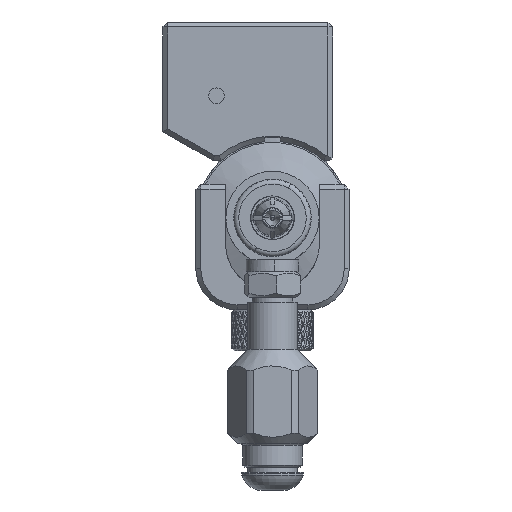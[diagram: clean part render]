
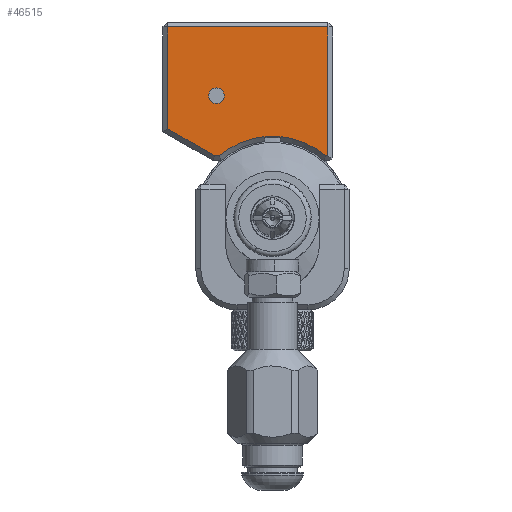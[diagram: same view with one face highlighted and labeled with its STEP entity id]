
A CAD part, front view. The second image highlights one B-rep face of the part: STEP entity #46515.
In plain terms, the highlighted planar face has unit normal (0, -1, 0).
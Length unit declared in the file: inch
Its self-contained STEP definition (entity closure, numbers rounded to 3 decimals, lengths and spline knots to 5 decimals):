
#912 = CIRCLE ( 'NONE', #98925, 0.04724 ) ;
#1255 = ORIENTED_EDGE ( 'NONE', *, *, #42597, .T. ) ;
#3346 = EDGE_CURVE ( 'NONE', #21566, #99352, #51080, .T. ) ;
#4582 = CARTESIAN_POINT ( 'NONE',  ( 0.335, -0.059, 0. ) ) ;
#5339 = CARTESIAN_POINT ( 'NONE',  ( -0.34, -0.059, 0.78724 ) ) ;
#5379 = EDGE_LOOP ( 'NONE', ( #69637, #79323 ) ) ;
#6332 = CARTESIAN_POINT ( 'NONE',  ( 0.335, -0.059, 1.157 ) ) ;
#10226 = CARTESIAN_POINT ( 'NONE',  ( 0.32109, -0.059, 0.37673 ) ) ;
#10686 = DIRECTION ( 'NONE',  ( -1., 0., 0. ) ) ;
#11134 = CARTESIAN_POINT ( 'NONE',  ( -0.635, -0.059, 1.157 ) ) ;
#11226 = AXIS2_PLACEMENT_3D ( 'NONE', #55472, #65002, #79160 ) ;
#11325 = CARTESIAN_POINT ( 'NONE',  ( -0.635, -0.059, 0.54023 ) ) ;
#12843 = CARTESIAN_POINT ( 'NONE',  ( 0., -0.059, 0.37673 ) ) ;
#15457 = ORIENTED_EDGE ( 'NONE', *, *, #41657, .T. ) ;
#17070 = CARTESIAN_POINT ( 'NONE',  ( -0.34, -0.059, 0.74 ) ) ;
#18129 = EDGE_CURVE ( 'NONE', #98859, #46870, #34587, .T. ) ;
#19623 = DIRECTION ( 'NONE',  ( 0.866, 0., -0.5 ) ) ;
#20494 = VERTEX_POINT ( 'NONE', #11325 ) ;
#20880 = DIRECTION ( 'NONE',  ( 1., 0., 0. ) ) ;
#21566 = VERTEX_POINT ( 'NONE', #10226 ) ;
#21639 = CARTESIAN_POINT ( 'NONE',  ( -0.635, -0.059, 0. ) ) ;
#22132 = LINE ( 'NONE', #4582, #53540 ) ;
#24955 = EDGE_CURVE ( 'NONE', #37391, #44688, #65994, .T. ) ;
#25298 = EDGE_CURVE ( 'NONE', #38194, #74192, #912, .T. ) ;
#27058 = EDGE_CURVE ( 'NONE', #20494, #98859, #65403, .T. ) ;
#27169 = CARTESIAN_POINT ( 'NONE',  ( 0.07518, -0.059, 0.13021 ) ) ;
#28188 = LINE ( 'NONE', #21639, #39812 ) ;
#28514 = VECTOR ( 'NONE', #20880, 39.37008 ) ;
#31106 = ORIENTED_EDGE ( 'NONE', *, *, #18129, .T. ) ;
#32839 = AXIS2_PLACEMENT_3D ( 'NONE', #80103, #94269, #85711 ) ;
#34587 = LINE ( 'NONE', #82420, #89309 ) ;
#37391 = VERTEX_POINT ( 'NONE', #6332 ) ;
#38194 = VERTEX_POINT ( 'NONE', #5339 ) ;
#39812 = VECTOR ( 'NONE', #84095, 39.37008 ) ;
#41482 = VECTOR ( 'NONE', #10686, 39.37008 ) ;
#41657 = EDGE_CURVE ( 'NONE', #99352, #37391, #22132, .T. ) ;
#42597 = EDGE_CURVE ( 'NONE', #46870, #21566, #93930, .T. ) ;
#44688 = VERTEX_POINT ( 'NONE', #11134 ) ;
#46515 = ADVANCED_FACE ( 'NONE', ( #64491, #87214 ), #71064, .F. ) ;
#46870 = VERTEX_POINT ( 'NONE', #78004 ) ;
#47593 = EDGE_LOOP ( 'NONE', ( #73525, #48624, #31106, #1255, #51527, #15457, #82339 ) ) ;
#48624 = ORIENTED_EDGE ( 'NONE', *, *, #27058, .T. ) ;
#48926 = CARTESIAN_POINT ( 'NONE',  ( 0., -0.059, 1.157 ) ) ;
#51080 = LINE ( 'NONE', #12843, #28514 ) ;
#51527 = ORIENTED_EDGE ( 'NONE', *, *, #3346, .T. ) ;
#52336 = DIRECTION ( 'NONE',  ( 0., 0., 1. ) ) ;
#53540 = VECTOR ( 'NONE', #52336, 39.37008 ) ;
#55472 = CARTESIAN_POINT ( 'NONE',  ( -0.34, -0.059, 0.74 ) ) ;
#59232 = DIRECTION ( 'NONE',  ( 1., 0., 0. ) ) ;
#61064 = CARTESIAN_POINT ( 'NONE',  ( -0.35181, -0.059, 0.37673 ) ) ;
#62876 = DIRECTION ( 'NONE',  ( 0., 0., 1. ) ) ;
#64491 = FACE_OUTER_BOUND ( 'NONE', #47593, .T. ) ;
#65002 = DIRECTION ( 'NONE',  ( 0., 1., 0. ) ) ;
#65317 = VECTOR ( 'NONE', #19623, 39.37008 ) ;
#65403 = LINE ( 'NONE', #27169, #65317 ) ;
#65994 = LINE ( 'NONE', #48926, #41482 ) ;
#67467 = CIRCLE ( 'NONE', #11226, 0.04724 ) ;
#67954 = CARTESIAN_POINT ( 'NONE',  ( 0., -0.059, 0. ) ) ;
#69637 = ORIENTED_EDGE ( 'NONE', *, *, #25298, .T. ) ;
#71064 = PLANE ( 'NONE',  #32839 ) ;
#73525 = ORIENTED_EDGE ( 'NONE', *, *, #93647, .T. ) ;
#74192 = VERTEX_POINT ( 'NONE', #82323 ) ;
#76587 = DIRECTION ( 'NONE',  ( 0., 1., 0. ) ) ;
#78004 = CARTESIAN_POINT ( 'NONE',  ( -0.32109, -0.059, 0.37673 ) ) ;
#79160 = DIRECTION ( 'NONE',  ( 0., 0., 1. ) ) ;
#79323 = ORIENTED_EDGE ( 'NONE', *, *, #97582, .T. ) ;
#80103 = CARTESIAN_POINT ( 'NONE',  ( 0., -0.059, 0. ) ) ;
#82323 = CARTESIAN_POINT ( 'NONE',  ( -0.34, -0.059, 0.69276 ) ) ;
#82339 = ORIENTED_EDGE ( 'NONE', *, *, #24955, .T. ) ;
#82420 = CARTESIAN_POINT ( 'NONE',  ( 0., -0.059, 0.37673 ) ) ;
#84095 = DIRECTION ( 'NONE',  ( 0., 0., -1. ) ) ;
#85711 = DIRECTION ( 'NONE',  ( 0., 0., 1. ) ) ;
#86121 = CARTESIAN_POINT ( 'NONE',  ( 0.335, -0.059, 0.37673 ) ) ;
#87214 = FACE_BOUND ( 'NONE', #5379, .T. ) ;
#89105 = AXIS2_PLACEMENT_3D ( 'NONE', #67954, #98698, #97195 ) ;
#89309 = VECTOR ( 'NONE', #59232, 39.37008 ) ;
#93647 = EDGE_CURVE ( 'NONE', #44688, #20494, #28188, .T. ) ;
#93930 = CIRCLE ( 'NONE', #89105, 0.495 ) ;
#94269 = DIRECTION ( 'NONE',  ( 0., 1., 0. ) ) ;
#97195 = DIRECTION ( 'NONE',  ( 0., 0., 1. ) ) ;
#97582 = EDGE_CURVE ( 'NONE', #74192, #38194, #67467, .T. ) ;
#98698 = DIRECTION ( 'NONE',  ( 0., 1., 0. ) ) ;
#98859 = VERTEX_POINT ( 'NONE', #61064 ) ;
#98925 = AXIS2_PLACEMENT_3D ( 'NONE', #17070, #76587, #62876 ) ;
#99352 = VERTEX_POINT ( 'NONE', #86121 ) ;
